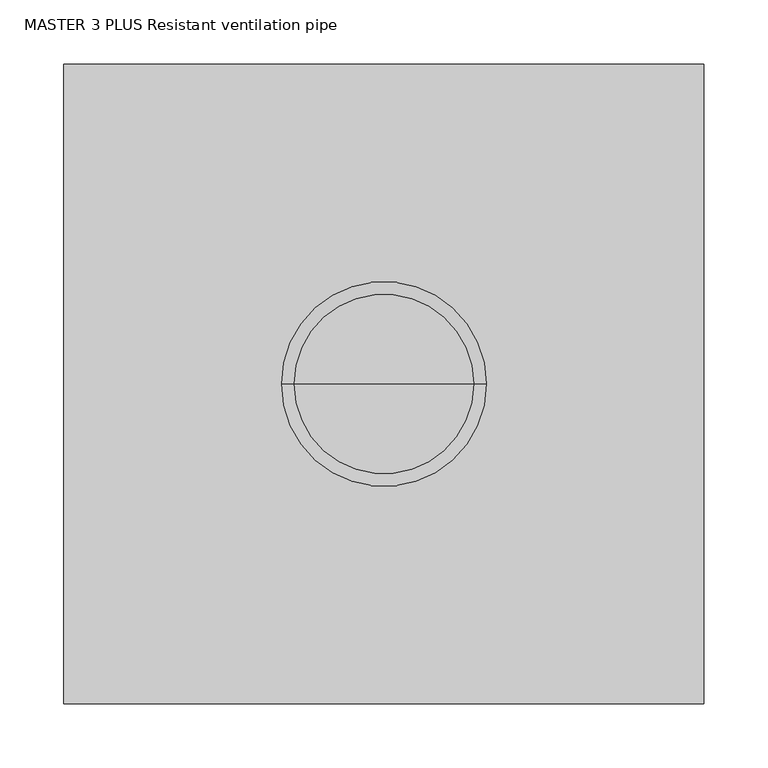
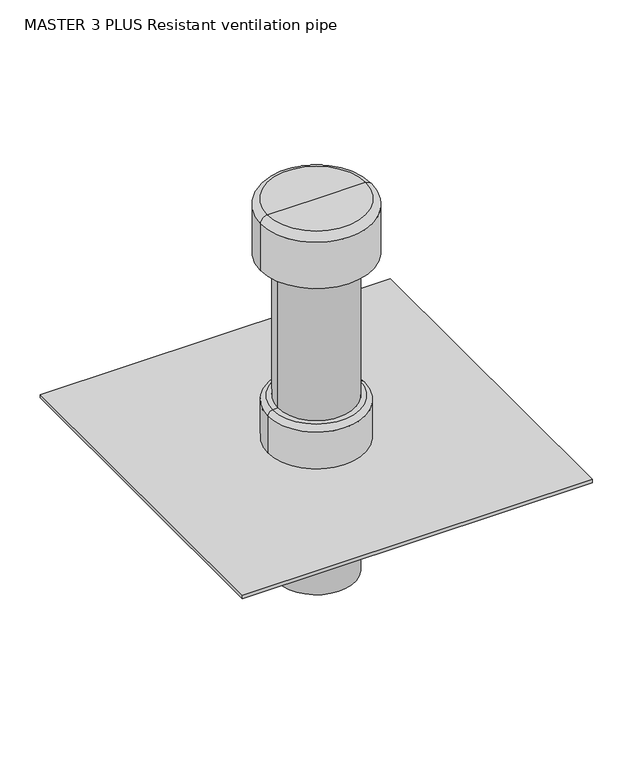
"""IFC4 building model written with IfcOpenShell, lengths in millimetres: valve geometry, MASTER 3 PLUS Resistant ventilation pipe : DN110, Lesp = 200, L3 = 360 mm."""

from ifc_helpers import new_model, si_unit, point, frame, origin, origin_with_axes, origin_2d, place, context, project, spatial, polyline, circle_curve, ellipse_curve, trimmed, segment, composite_curve, outline, extrude, source, transform, mapped, element, save
from ifc_brep_helpers import plane_surface, cylinder_surface, revolved_surface, advanced_brep


def master_3_plus_resistant_ventilation_pipe_c144d21e(model_context):
    return source(origin(), model_context, "Body", "SolidModel", [
        advanced_brep(
        [(70.0, 0.0, 560.0), (-70.0, 0.0, 560.0), (0.0, 0.0, 560.0), (80.0, 0.0, 480.0), (-80.0, 0.0, 480.0), (-80.0, 0.0, 550.0), (80.0, 0.0, 550.0), (0.0, 0.0, 480.0)],
        [
            (0, 1, circle_curve(frame((0.0, 0.0, 560.0), z_axis=(0.0, 0.0, 1.0), x_axis=(-1.0, 0.0, 0.0)), 70.0)),
            (1, 2),
            (2, 0),
            (1, 0, circle_curve(frame((0.0, 0.0, 560.0), z_axis=(0.0, 0.0, 1.0), x_axis=(-1.0, 0.0, 0.0)), 70.0)),
            (3, 4, circle_curve(frame((0.0, 0.0, 480.0), z_axis=(0.0, 0.0, 1.0), x_axis=(-1.0, 0.0, 0.0)), 80.0)),
            (4, 5),
            (5, 6, circle_curve(frame((0.0, 0.0, 550.0), z_axis=(0.0, 0.0, -1.0), x_axis=(-1.0, 0.0, 0.0)), 80.0)),
            (6, 3),
            (4, 3, circle_curve(frame((0.0, 0.0, 480.0), z_axis=(0.0, 0.0, 1.0), x_axis=(-1.0, 0.0, 0.0)), 80.0)),
            (6, 5, circle_curve(frame((0.0, 0.0, 550.0), z_axis=(0.0, 0.0, -1.0), x_axis=(-1.0, 0.0, 0.0)), 80.0)),
            (7, 4),
            (3, 7),
            (5, 1, circle_curve(frame((-70.0, 0.0, 550.0), z_axis=(0.0, 1.0, 0.0), x_axis=(1.0, 0.0, 0.0)), 10.0)),
            (0, 6, circle_curve(frame((70.0, 0.0, 550.0), z_axis=(0.0, 1.0, 0.0), x_axis=(-1.0, 0.0, 0.0)), 10.0)),
        ],
        [
            plane_surface(frame((0.0, 0.0, 560.0), z_axis=(0.0, 0.0, 1.0), x_axis=(-1.0, 0.0, 0.0))),
            cylinder_surface(frame((0.0, 0.0, 560.0), z_axis=(0.0, 0.0, -1.0), x_axis=(-1.0, 0.0, 0.0)), 80.0),
            plane_surface(frame((0.0, 0.0, 480.0), z_axis=(0.0, 0.0, -1.0), x_axis=(-1.0, 0.0, 0.0))),
            revolved_surface(trimmed(ellipse_curve(frame((-70.0, 0.0, 550.0), z_axis=(0.0, -1.0, 0.0), x_axis=(1.0, 0.0, 0.0)), 10.0, 10.0), [point((-70.0, 0.0, 560.0))], [point((-80.0, 0.0, 550.0))], True, "CARTESIAN"), (0.0, 0.0, 560.0), (0.0, 0.0, -1.0)),
        ],
        [
            (0, [[1, 2, 3]]),
            (0, [[4, -3, -2]]),
            (1, [[5, 6, 7, 8]]),
            (1, [[9, -8, 10, -6]]),
            (2, [[11, -5, 12]]),
            (2, [[-12, -9, -11]]),
            (3, [[-7, 13, -1, 14]]),
            (3, [[-10, -14, -4, -13]]),
        ],
    ),
        extrude(outline(polyline([(250.0, 250.0), (250.0, -250.0), (-250.0, -250.0), (-250.0, 250.0), (250.0, 250.0)]), holes=[composite_curve([segment(trimmed(circle_curve(origin_2d(), 55.0), [point((-55.0, 0.0))], [point((55.0, 0.0))], True, "CARTESIAN"), True, "CONTINUOUS"), segment(trimmed(circle_curve(origin_2d(), 55.0), [point((55.0, 0.0))], [point((-55.0, 0.0))], True, "CARTESIAN"), True, "CONTINUOUS")], self_intersect=False)]), frame((0.0, 0.0, 194.9838403), z_axis=(0.0, 0.0, 1.0), x_axis=(1.0, 0.0, 0.0)), (0.0, 0.0, 1.0), 5.0161597),
        advanced_brep(
        [(69.5, 0.0, 200.0), (-69.5, 0.0, 200.0), (-69.5, 0.0, 255.75), (69.5, 0.0, 255.75), (55.0, 0.0, 200.0), (-55.0, 0.0, 200.0), (55.0, 0.0, 263.0), (-55.0, 0.0, 263.0), (62.25, 0.0, 263.0), (-62.25, 0.0, 263.0)],
        [
            (0, 1, circle_curve(frame((0.0, 0.0, 200.0), z_axis=(0.0, 0.0, 1.0), x_axis=(-1.0, 0.0, 0.0)), 69.5)),
            (1, 2),
            (2, 3, circle_curve(frame((0.0, 0.0, 255.75), z_axis=(0.0, 0.0, -1.0), x_axis=(-1.0, 0.0, 0.0)), 69.5)),
            (3, 0),
            (1, 0, circle_curve(frame((0.0, 0.0, 200.0), z_axis=(0.0, 0.0, 1.0), x_axis=(-1.0, 0.0, 0.0)), 69.5)),
            (3, 2, circle_curve(frame((0.0, 0.0, 255.75), z_axis=(0.0, 0.0, -1.0), x_axis=(-1.0, 0.0, 0.0)), 69.5)),
            (4, 5, circle_curve(frame((0.0, 0.0, 200.0), z_axis=(0.0, 0.0, 1.0), x_axis=(-1.0, 0.0, 0.0)), 55.0)),
            (5, 1),
            (0, 4),
            (5, 4, circle_curve(frame((0.0, 0.0, 200.0), z_axis=(0.0, 0.0, 1.0), x_axis=(-1.0, 0.0, 0.0)), 55.0)),
            (6, 7, circle_curve(frame((0.0, 0.0, 263.0), z_axis=(0.0, 0.0, 1.0), x_axis=(-1.0, 0.0, 0.0)), 55.0)),
            (7, 5),
            (4, 6),
            (7, 6, circle_curve(frame((0.0, 0.0, 263.0), z_axis=(0.0, 0.0, 1.0), x_axis=(-1.0, 0.0, 0.0)), 55.0)),
            (8, 9, circle_curve(frame((0.0, 0.0, 263.0), z_axis=(0.0, 0.0, 1.0), x_axis=(-1.0, 0.0, 0.0)), 62.25)),
            (9, 7),
            (6, 8),
            (9, 8, circle_curve(frame((0.0, 0.0, 263.0), z_axis=(0.0, 0.0, 1.0), x_axis=(-1.0, 0.0, 0.0)), 62.25)),
            (2, 9, circle_curve(frame((-62.25, 0.0, 255.75), z_axis=(0.0, 1.0, 0.0), x_axis=(1.0, 0.0, 0.0)), 7.25)),
            (8, 3, circle_curve(frame((62.25, 0.0, 255.75), z_axis=(0.0, 1.0, 0.0), x_axis=(-1.0, 0.0, 0.0)), 7.25)),
        ],
        [
            cylinder_surface(frame((0.0, 0.0, 263.0), z_axis=(0.0, 0.0, -1.0), x_axis=(-1.0, 0.0, 0.0)), 69.5),
            plane_surface(frame((0.0, 0.0, 200.0), z_axis=(0.0, 0.0, -1.0), x_axis=(-1.0, 0.0, 0.0))),
            revolved_surface(polyline([(-55.0, 0.0, 200.0), (-55.0, 0.0, 263.0)]), (0.0, 0.0, 263.0), (0.0, 0.0, -1.0)),
            plane_surface(frame((0.0, 0.0, 263.0), z_axis=(0.0, 0.0, 1.0), x_axis=(-1.0, 0.0, 0.0))),
            revolved_surface(trimmed(ellipse_curve(frame((-62.25, 0.0, 255.75), z_axis=(0.0, -1.0, 0.0), x_axis=(1.0, 0.0, 0.0)), 7.25, 7.25), [point((-62.25, 0.0, 263.0))], [point((-69.5, 0.0, 255.75))], True, "CARTESIAN"), (0.0, 0.0, 263.0), (0.0, 0.0, -1.0)),
        ],
        [
            (0, [[1, 2, 3, 4]]),
            (0, [[5, -4, 6, -2]]),
            (1, [[7, 8, -1, 9]]),
            (1, [[10, -9, -5, -8]]),
            (2, [[11, 12, -7, 13]]),
            (2, [[14, -13, -10, -12]]),
            (3, [[15, 16, -11, 17]]),
            (3, [[18, -17, -14, -16]]),
            (4, [[-3, 19, -15, 20]]),
            (4, [[-6, -20, -18, -19]]),
        ],
    ),
        extrude(outline(composite_curve([segment(trimmed(circle_curve(origin_2d(), 55.0), [point((55.0, 0.0))], [point((-55.0, 0.0))], False, "CARTESIAN"), True, "CONTINUOUS"), segment(trimmed(circle_curve(origin_2d(), 55.0), [point((-55.0, 0.0))], [point((55.0, 0.0))], False, "CARTESIAN"), True, "CONTINUOUS")], self_intersect=False)), frame((0.0, 0.0, 200.0), z_axis=(0.0, 0.0, 1.0), x_axis=(1.0, 0.0, 0.0)), (0.0, 0.0, 1.0), 332.0),
        extrude(outline(composite_curve([segment(trimmed(circle_curve(origin_2d(), 55.0), [point((-55.0, 0.0))], [point((55.0, 0.0))], False, "CARTESIAN"), True, "CONTINUOUS"), segment(trimmed(circle_curve(origin_2d(), 55.0), [point((55.0, 0.0))], [point((-55.0, 0.0))], False, "CARTESIAN"), True, "CONTINUOUS")], self_intersect=False)), origin_with_axes(), (0.0, 0.0, 1.0), 194.9838403),
    ])


if __name__ == "__main__":
    model = new_model("IFC4")
    model_context = context("Model", 3, world=origin())
    ifc_project = project(units=[si_unit("LENGTHUNIT", "METRE", prefix="MILLI")], contexts=[model_context])
    site = spatial("IfcSite", under=ifc_project)
    building = spatial("IfcBuilding", under=site)
    placement = place(None, origin())
    master_3_plus_resistant_ventilation_pipe_shape = master_3_plus_resistant_ventilation_pipe_c144d21e(model_context)
    element("IfcValve", 1, ObjectType="MASTER 3 PLUS Resistant ventilation pipe : DN110, Lesp = 200, L3 = 360 mm", at=placement, inside=building, context=model_context, shape_type="MappedRepresentation", body=[
        mapped(master_3_plus_resistant_ventilation_pipe_shape, transform((0.0, 0.0, 0.0), x_axis=(1.0, 0.0, 0.0), y_axis=(0.0, 1.0, 0.0), z_axis=(0.0, 0.0, 1.0))),
    ])
    save(model, "model.ifc")
